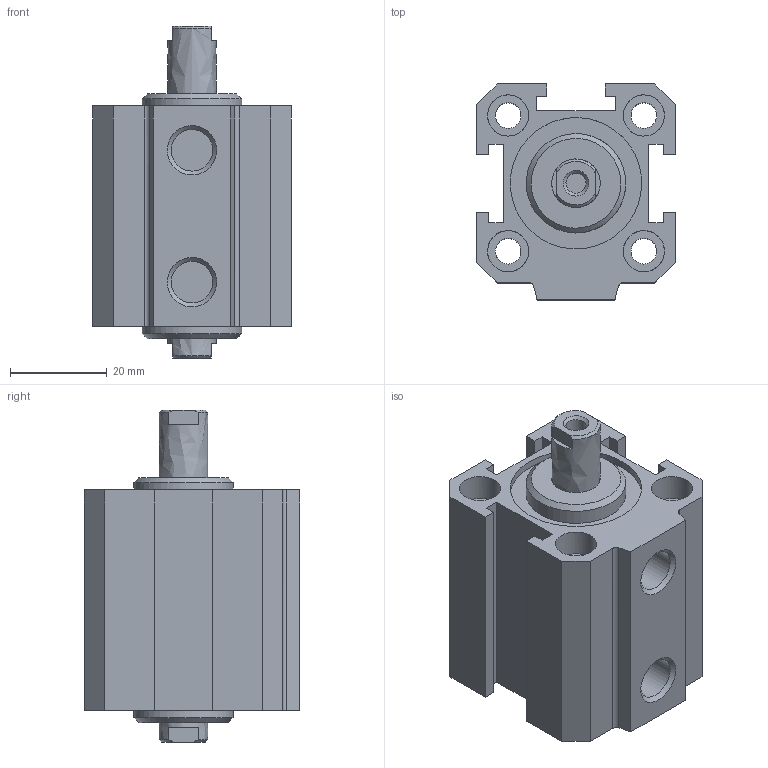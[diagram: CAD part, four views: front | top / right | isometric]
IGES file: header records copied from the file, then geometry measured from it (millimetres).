
Global section: file name: 1514_25_0010; native system: Autodesk Inventor 2014; preprocessor: unknown; author: A. Manieri; date: 20160824.111942; units: millimetre
Bounding box: 41 x 44.5 x 68.5 mm (x, y, z)
Volume: 57973.3 mm3; surface area: 24638.5 mm2
Topology: 2 solids, 2 shells, 106 faces, 280 edges, 198 vertices
Faces by surface type: bspline 106
